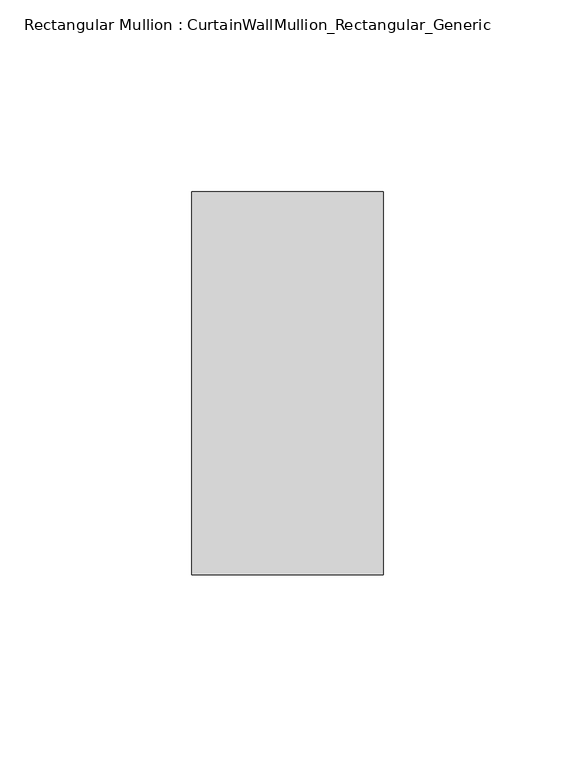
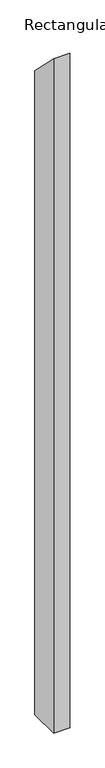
"""IFC4 building model written with IfcOpenShell, lengths in millimetres: member geometry, Rectangular Mullion : CurtainWallMullion_Rectangular_Generic."""

from ifc_helpers import new_model, si_unit, frame, origin, place, context, project, spatial, polyline, outline, extrude, source, transform, mapped, element, save


def rectangular_mullion_curtainwallmullion_rectangular_generic_f1446028(model_context):
    return source(origin(), model_context, "Body", "SweptSolid", [
        extrude(outline(polyline([(-50.0, 50.0), (50.0, -50.0), (50.0, -2157.0000002), (-50.0, -2157.0000002), (-50.0, 50.0)])), frame((-50.0, 0.0, 0.0), z_axis=(1.0, 0.0, 0.0), x_axis=(0.0, 1.0, 0.0)), (0.0, 0.0, 1.0), 50.0),
    ])


if __name__ == "__main__":
    model = new_model("IFC4")
    model_context = context("Model", 3, world=origin())
    ifc_project = project(units=[si_unit("LENGTHUNIT", "METRE", prefix="MILLI")], contexts=[model_context])
    site = spatial("IfcSite", under=ifc_project)
    building = spatial("IfcBuilding", under=site)
    placement = place(None, origin())
    rectangular_mullion_curtainwallmullion_rectangular_generic_shape = rectangular_mullion_curtainwallmullion_rectangular_generic_f1446028(model_context)
    element("IfcMember", 1, ObjectType="Rectangular Mullion : CurtainWallMullion_Rectangular_Generic", at=placement, inside=building, context=model_context, shape_type="MappedRepresentation", body=[
        mapped(rectangular_mullion_curtainwallmullion_rectangular_generic_shape, transform((0.0, 0.0, 0.0), x_axis=(1.0, 0.0, 0.0), y_axis=(0.0, 1.0, 0.0), z_axis=(0.0, 0.0, 1.0))),
    ])
    save(model, "model.ifc")
